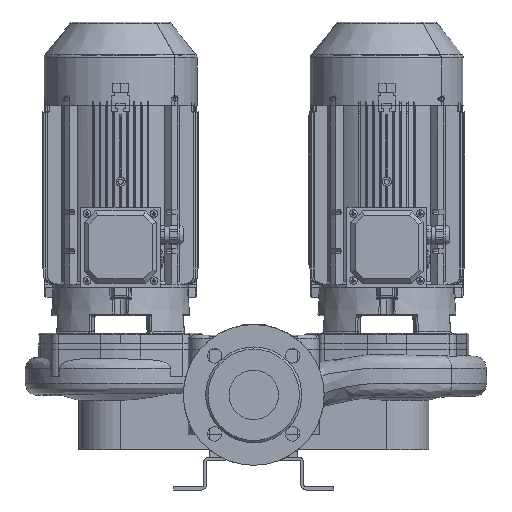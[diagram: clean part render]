
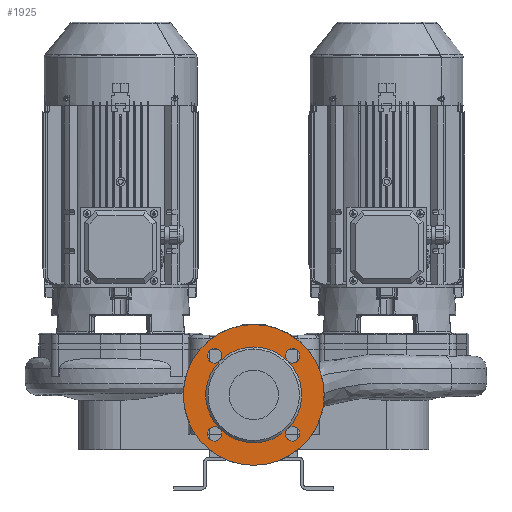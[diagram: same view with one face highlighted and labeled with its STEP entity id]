
A CAD part, front view. The second image highlights one B-rep face of the part: STEP entity #1925.
In plain terms, the highlighted planar face has unit normal (0, -1, 0) as drawn and (0, 1, 0) by its records, which use the part's own axes.
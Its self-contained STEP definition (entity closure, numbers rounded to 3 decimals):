
#1925=ADVANCED_FACE('',(#3713,#3714),#3715,.T.);
#2057=EDGE_CURVE('',#3938,#3939,#3940,.T.);
#2059=EDGE_CURVE('',#3942,#3938,#3943,.T.);
#2061=EDGE_CURVE('',#3945,#3942,#3946,.T.);
#2065=EDGE_CURVE('',#3952,#3953,#3954,.T.);
#2069=EDGE_CURVE('',#3960,#3961,#3962,.T.);
#2073=EDGE_CURVE('',#3968,#3969,#3970,.T.);
#2077=EDGE_CURVE('',#3976,#3977,#3978,.T.);
#2081=EDGE_CURVE('',#3984,#3985,#3986,.T.);
#2207=EDGE_CURVE('',#3985,#3984,#4178,.T.);
#2211=EDGE_CURVE('',#3942,#3976,#4182,.T.);
#2213=EDGE_CURVE('',#3977,#3942,#4184,.T.);
#2215=EDGE_CURVE('',#3938,#3968,#4186,.T.);
#2217=EDGE_CURVE('',#3969,#3938,#4188,.T.);
#2219=EDGE_CURVE('',#4190,#3960,#4191,.T.);
#2221=EDGE_CURVE('',#3961,#4190,#4193,.T.);
#2223=EDGE_CURVE('',#4195,#3952,#4196,.T.);
#2225=EDGE_CURVE('',#3953,#4195,#4198,.T.);
#2227=EDGE_CURVE('',#3939,#4190,#4200,.T.);
#2229=EDGE_CURVE('',#4190,#4195,#4202,.T.);
#2231=EDGE_CURVE('',#4195,#3945,#4204,.T.);
#3713=FACE_OUTER_BOUND('',#9809,.T.);
#3714=FACE_BOUND('',#9810,.T.);
#3715=PLANE('',#9811);
#3938=VERTEX_POINT('',#10716);
#3939=VERTEX_POINT('',#10717);
#3940=CIRCLE('',#10718,63.0);
#3942=VERTEX_POINT('',#10721);
#3943=CIRCLE('',#10722,63.0);
#3945=VERTEX_POINT('',#10725);
#3946=CIRCLE('',#10726,63.0);
#3952=VERTEX_POINT('',#10734);
#3953=VERTEX_POINT('',#10735);
#3954=CIRCLE('',#10736,9.5);
#3960=VERTEX_POINT('',#10744);
#3961=VERTEX_POINT('',#10745);
#3962=CIRCLE('',#10746,9.5);
#3968=VERTEX_POINT('',#10754);
#3969=VERTEX_POINT('',#10755);
#3970=CIRCLE('',#10756,9.5);
#3976=VERTEX_POINT('',#10764);
#3977=VERTEX_POINT('',#10765);
#3978=CIRCLE('',#10766,9.5);
#3984=VERTEX_POINT('',#10774);
#3985=VERTEX_POINT('',#10775);
#3986=CIRCLE('',#10776,92.5);
#4178=CIRCLE('',#11100,92.5);
#4182=CIRCLE('',#11106,9.5);
#4184=CIRCLE('',#11109,9.5);
#4186=CIRCLE('',#11112,9.5);
#4188=CIRCLE('',#11115,9.5);
#4190=VERTEX_POINT('',#11118);
#4191=CIRCLE('',#11119,9.5);
#4193=CIRCLE('',#11122,9.5);
#4195=VERTEX_POINT('',#11125);
#4196=CIRCLE('',#11126,9.5);
#4198=CIRCLE('',#11129,9.5);
#4200=CIRCLE('',#11132,63.0);
#4202=CIRCLE('',#11135,63.0);
#4204=CIRCLE('',#11138,63.0);
#9809=EDGE_LOOP('',(#18414,#18415));
#9810=EDGE_LOOP('',(#18416,#18417,#18418,#18419,#18420,#18421,#18422,#18423,#18424,#18425,#18426,#18427,#18428,#18429,#18430,#18431,#18432,#18433));
#9811=AXIS2_PLACEMENT_3D('',#18434,#18435,#18436);
#10716=CARTESIAN_POINT('',(44.548,217.,20.048));
#10717=CARTESIAN_POINT('',(0.,217.0,38.5));
#10718=AXIS2_PLACEMENT_3D('',#18916,#18917,#18918);
#10721=CARTESIAN_POINT('',(44.548,217.0,-69.048));
#10722=AXIS2_PLACEMENT_3D('',#18919,#18920,#18921);
#10725=CARTESIAN_POINT('',(0.,217.0,-87.5));
#10726=AXIS2_PLACEMENT_3D('',#18922,#18923,#18924);
#10734=CARTESIAN_POINT('',(-56.624,217.0,-67.921));
#10735=CARTESIAN_POINT('',(-45.906,217.0,-83.609));
#10736=AXIS2_PLACEMENT_3D('',#18928,#18929,#18930);
#10744=CARTESIAN_POINT('',(-43.421,217.,32.124));
#10745=CARTESIAN_POINT('',(-59.109,217.,21.406));
#10746=AXIS2_PLACEMENT_3D('',#18934,#18935,#18936);
#10754=CARTESIAN_POINT('',(56.624,217.,18.921));
#10755=CARTESIAN_POINT('',(45.906,217.,34.609));
#10756=AXIS2_PLACEMENT_3D('',#18940,#18941,#18942);
#10764=CARTESIAN_POINT('',(43.421,217.0,-81.124));
#10765=CARTESIAN_POINT('',(59.109,217.0,-70.406));
#10766=AXIS2_PLACEMENT_3D('',#18946,#18947,#18948);
#10774=CARTESIAN_POINT('',(0.,217.0,-117.0));
#10775=CARTESIAN_POINT('',(0.,217.0,68.0));
#10776=AXIS2_PLACEMENT_3D('',#18952,#18953,#18954);
#11100=AXIS2_PLACEMENT_3D('',#19088,#19089,#19090);
#11106=AXIS2_PLACEMENT_3D('',#19094,#19095,#19096);
#11109=AXIS2_PLACEMENT_3D('',#19097,#19098,#19099);
#11112=AXIS2_PLACEMENT_3D('',#19100,#19101,#19102);
#11115=AXIS2_PLACEMENT_3D('',#19103,#19104,#19105);
#11118=CARTESIAN_POINT('',(-44.548,217.,20.048));
#11119=AXIS2_PLACEMENT_3D('',#19106,#19107,#19108);
#11122=AXIS2_PLACEMENT_3D('',#19109,#19110,#19111);
#11125=CARTESIAN_POINT('',(-44.548,217.0,-69.048));
#11126=AXIS2_PLACEMENT_3D('',#19112,#19113,#19114);
#11129=AXIS2_PLACEMENT_3D('',#19115,#19116,#19117);
#11132=AXIS2_PLACEMENT_3D('',#19118,#19119,#19120);
#11135=AXIS2_PLACEMENT_3D('',#19121,#19122,#19123);
#11138=AXIS2_PLACEMENT_3D('',#19124,#19125,#19126);
#18414=ORIENTED_EDGE('',*,*,#2207,.F.);
#18415=ORIENTED_EDGE('',*,*,#2081,.F.);
#18416=ORIENTED_EDGE('',*,*,#2057,.T.);
#18417=ORIENTED_EDGE('',*,*,#2227,.T.);
#18418=ORIENTED_EDGE('',*,*,#2219,.T.);
#18419=ORIENTED_EDGE('',*,*,#2069,.T.);
#18420=ORIENTED_EDGE('',*,*,#2221,.T.);
#18421=ORIENTED_EDGE('',*,*,#2229,.T.);
#18422=ORIENTED_EDGE('',*,*,#2223,.T.);
#18423=ORIENTED_EDGE('',*,*,#2065,.T.);
#18424=ORIENTED_EDGE('',*,*,#2225,.T.);
#18425=ORIENTED_EDGE('',*,*,#2231,.T.);
#18426=ORIENTED_EDGE('',*,*,#2061,.T.);
#18427=ORIENTED_EDGE('',*,*,#2211,.T.);
#18428=ORIENTED_EDGE('',*,*,#2077,.T.);
#18429=ORIENTED_EDGE('',*,*,#2213,.T.);
#18430=ORIENTED_EDGE('',*,*,#2059,.T.);
#18431=ORIENTED_EDGE('',*,*,#2215,.T.);
#18432=ORIENTED_EDGE('',*,*,#2073,.T.);
#18433=ORIENTED_EDGE('',*,*,#2217,.T.);
#18434=CARTESIAN_POINT('',(0.,217.0,-102.25));
#18435=DIRECTION('',(0.0,1.0,0.0));
#18436=DIRECTION('',(0.0,0.0,1.0));
#18916=CARTESIAN_POINT('',(0.,217.0,-24.5));
#18917=DIRECTION('',(0.0,-1.0,0.0));
#18918=DIRECTION('',(0.0,0.0,-1.0));
#18919=CARTESIAN_POINT('',(0.,217.0,-24.5));
#18920=DIRECTION('',(0.0,-1.0,0.0));
#18921=DIRECTION('',(0.0,0.0,-1.0));
#18922=CARTESIAN_POINT('',(0.,217.0,-24.5));
#18923=DIRECTION('',(0.0,-1.0,0.0));
#18924=DIRECTION('',(0.0,0.0,-1.0));
#18928=CARTESIAN_POINT('',(-51.265,217.0,-75.765));
#18929=DIRECTION('',(0.0,-1.0,0.0));
#18930=DIRECTION('',(-0.564,0.0,0.826));
#18934=CARTESIAN_POINT('',(-51.265,217.,26.765));
#18935=DIRECTION('',(0.0,-1.0,0.0));
#18936=DIRECTION('',(0.826,0.0,0.564));
#18940=CARTESIAN_POINT('',(51.265,217.,26.765));
#18941=DIRECTION('',(0.0,-1.0,0.0));
#18942=DIRECTION('',(0.564,0.0,-0.826));
#18946=CARTESIAN_POINT('',(51.265,217.0,-75.765));
#18947=DIRECTION('',(0.0,-1.0,-0.0));
#18948=DIRECTION('',(-0.826,0.0,-0.564));
#18952=CARTESIAN_POINT('',(0.,217.0,-24.5));
#18953=DIRECTION('',(0.0,-1.0,0.0));
#18954=DIRECTION('',(0.0,0.0,-1.0));
#19088=CARTESIAN_POINT('',(0.,217.0,-24.5));
#19089=DIRECTION('',(0.0,-1.0,0.0));
#19090=DIRECTION('',(0.0,0.0,-1.0));
#19094=CARTESIAN_POINT('',(51.265,217.0,-75.765));
#19095=DIRECTION('',(0.0,-1.0,-0.0));
#19096=DIRECTION('',(-0.826,0.0,-0.564));
#19097=CARTESIAN_POINT('',(51.265,217.0,-75.765));
#19098=DIRECTION('',(0.0,-1.0,-0.0));
#19099=DIRECTION('',(-0.826,0.0,-0.564));
#19100=CARTESIAN_POINT('',(51.265,217.,26.765));
#19101=DIRECTION('',(0.0,-1.0,0.0));
#19102=DIRECTION('',(0.564,0.0,-0.826));
#19103=CARTESIAN_POINT('',(51.265,217.,26.765));
#19104=DIRECTION('',(0.0,-1.0,0.0));
#19105=DIRECTION('',(0.564,0.0,-0.826));
#19106=CARTESIAN_POINT('',(-51.265,217.,26.765));
#19107=DIRECTION('',(0.0,-1.0,0.0));
#19108=DIRECTION('',(0.826,0.0,0.564));
#19109=CARTESIAN_POINT('',(-51.265,217.,26.765));
#19110=DIRECTION('',(0.0,-1.0,0.0));
#19111=DIRECTION('',(0.826,0.0,0.564));
#19112=CARTESIAN_POINT('',(-51.265,217.0,-75.765));
#19113=DIRECTION('',(0.0,-1.0,0.0));
#19114=DIRECTION('',(-0.564,0.0,0.826));
#19115=CARTESIAN_POINT('',(-51.265,217.0,-75.765));
#19116=DIRECTION('',(0.0,-1.0,0.0));
#19117=DIRECTION('',(-0.564,0.0,0.826));
#19118=CARTESIAN_POINT('',(0.,217.0,-24.5));
#19119=DIRECTION('',(0.0,-1.0,0.0));
#19120=DIRECTION('',(0.0,0.0,-1.0));
#19121=CARTESIAN_POINT('',(0.,217.0,-24.5));
#19122=DIRECTION('',(0.0,-1.0,0.0));
#19123=DIRECTION('',(0.0,0.0,-1.0));
#19124=CARTESIAN_POINT('',(0.,217.0,-24.5));
#19125=DIRECTION('',(0.0,-1.0,0.0));
#19126=DIRECTION('',(0.0,0.0,-1.0));
